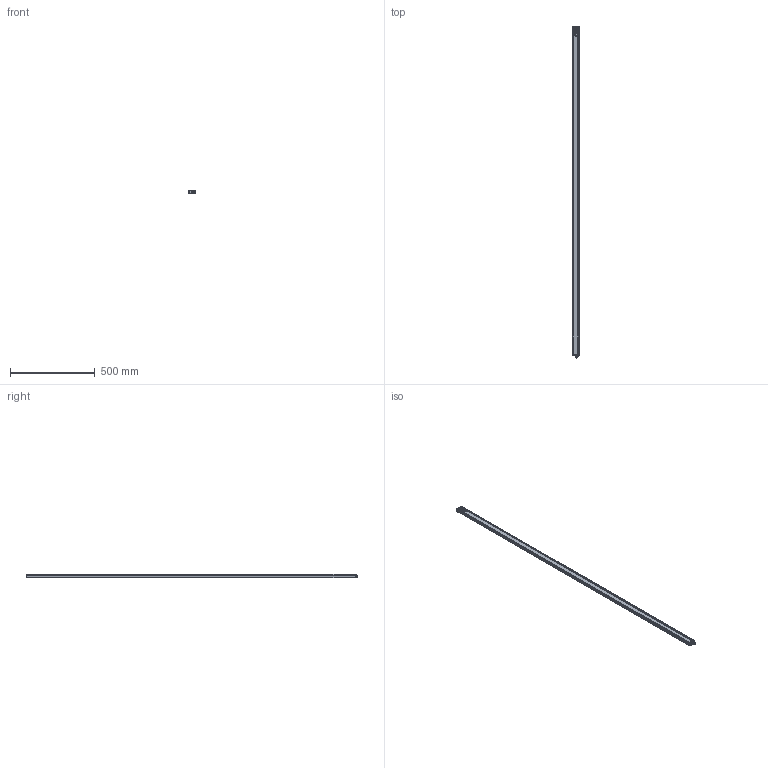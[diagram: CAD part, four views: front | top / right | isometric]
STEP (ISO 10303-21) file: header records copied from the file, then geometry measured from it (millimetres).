
FILE_DESCRIPTION(/* description */ (''),/* implementation_level */ '2;1');
FILE_NAME(/* name */ 'C:\Users\andre\SynologyDrive\Optoscan\Libreria Componenti\00 - Barriere\Polaris sorgente\Barriera Polaris RX\Polaris_1920_RX.stp',/* time_stamp */ '2021-06-04T12:00:42+02:00',/* author */ ('andre'),/* organization */ (''),/* preprocessor_version */ 'ST-DEVELOPER v18',/* originating_system */ 'Autodesk Inventor 2020',/* authorisation */ '');
FILE_SCHEMA (('AUTOMOTIVE_DESIGN { 1 0 10303 214 3 1 1 }'));
Length unit declared in the file: millimetre
Products named in the file (1): Polaris_1920_RX
Bounding box: 40.5 x 1953.3 x 20.75 mm (x, y, z)
Volume: 384983.1 mm3; surface area: 510527.4 mm2
Topology: 1 solids, 1 shells, 700 faces, 1926 edges, 1237 vertices
Faces by surface type: plane 319, cylinder 199, bspline 94, torus 70, sphere 10, cone 8
Full cylindrical faces by diameter (mm): 1 x8, 2.459 x4, 2.5 x4, 3 x4, 3.5 x4, 5.5 x4, 8 x1, 10.5 x2, 11.75 x9, 15.7 x1, 17.5 x1
Entity records: 28472 total; most frequent: CARTESIAN_POINT 10246, ORIENTED_EDGE 3826, DIRECTION 3447, EDGE_CURVE 1913, VERTEX_POINT 1237, AXIS2_PLACEMENT_3D 1211, LINE 1025, VECTOR 1025
